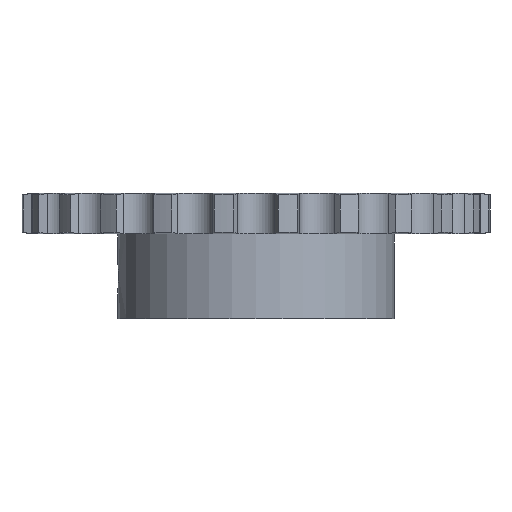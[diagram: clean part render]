
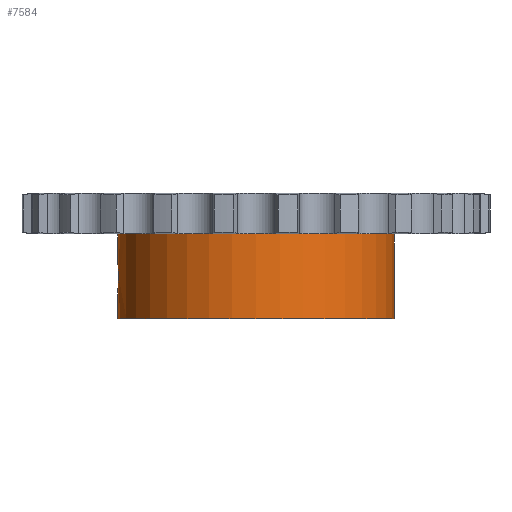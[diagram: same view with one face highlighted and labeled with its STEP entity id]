
A CAD part, front view. The second image highlights one B-rep face of the part: STEP entity #7584.
In plain terms, the highlighted cylindrical face has radius 55 mm (diameter 110 mm), a partial arc.
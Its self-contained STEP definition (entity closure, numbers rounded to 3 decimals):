
#1275=CARTESIAN_POINT('',(0.,0.,-8.1));
#1276=DIRECTION('',(0.,0.,1.));
#1277=DIRECTION('',(-1.,0.,0.));
#1278=AXIS2_PLACEMENT_3D('',#1275,#1276,#1277);
#3749=CARTESIAN_POINT('',(-55.,0.,
-20.));
#3775=DIRECTION('',(0.,0.,1.));
#3776=VECTOR('',#3775,33.8);
#3777=CARTESIAN_POINT('',(55.,0.,-41.9));
#3778=LINE('',#3777,#3776);
#3906=CARTESIAN_POINT('',(-55.,0.,
-20.));
#3907=CARTESIAN_POINT('',(-55.,-0.169,
-20.));
#3908=CARTESIAN_POINT('',(-54.998,-0.533,
-20.018));
#3909=CARTESIAN_POINT('',(-54.99,-1.089,
-20.105));
#3910=CARTESIAN_POINT('',(-54.976,-1.657,
-20.263));
#3911=CARTESIAN_POINT('',(-54.957,-2.202,
-20.484));
#3912=CARTESIAN_POINT('',(-54.934,-2.717,
-20.765));
#3913=CARTESIAN_POINT('',(-54.908,-3.195,
-21.104));
#3914=CARTESIAN_POINT('',(-54.881,-3.63,
-21.494));
#3915=CARTESIAN_POINT('',(-54.854,-4.015,
-21.929));
#3916=CARTESIAN_POINT('',(-54.828,-4.345,
-22.404));
#3917=CARTESIAN_POINT('',(-54.806,-4.619,
-22.914));
#3918=CARTESIAN_POINT('',(-54.787,-4.832,
-23.452));
#3919=CARTESIAN_POINT('',(-54.774,-4.979,
-24.007));
#3920=CARTESIAN_POINT('',(-54.767,-5.055,
-24.527));
#3921=CARTESIAN_POINT('',(-54.766,-5.069,
-24.857));
#3922=CARTESIAN_POINT('',(-54.766,-5.069,
-25.));
#3927=DIRECTION('',(0.,0.,1.));
#3928=VECTOR('',#3927,11.9);
#3929=CARTESIAN_POINT('',(-55.,0.,
-20.));
#3930=LINE('',#3929,#3928);
#3934=DIRECTION('',(0.,0.,1.));
#3935=VECTOR('',#3934,11.9);
#3936=CARTESIAN_POINT('',(-55.,0.,-41.9));
#3937=LINE('',#3936,#3935);
#3941=CARTESIAN_POINT('',(-54.766,-5.069,
-25.));
#3942=CARTESIAN_POINT('',(-54.766,-5.069,
-25.154));
#3943=CARTESIAN_POINT('',(-54.767,-5.053,
-25.496));
#3944=CARTESIAN_POINT('',(-54.775,-4.973,
-26.025));
#3945=CARTESIAN_POINT('',(-54.788,-4.822,
-26.577));
#3946=CARTESIAN_POINT('',(-54.807,-4.607,
-27.111));
#3947=CARTESIAN_POINT('',(-54.829,-4.332,
-27.617));
#3948=CARTESIAN_POINT('',(-54.855,-4.001,
-28.088));
#3949=CARTESIAN_POINT('',(-54.881,-3.616,
-28.519));
#3950=CARTESIAN_POINT('',(-54.908,-3.182,
-28.906));
#3951=CARTESIAN_POINT('',(-54.934,-2.705,
-29.242));
#3952=CARTESIAN_POINT('',(-54.957,-2.191,
-29.521));
#3953=CARTESIAN_POINT('',(-54.976,-1.649,
-29.74));
#3954=CARTESIAN_POINT('',(-54.99,-1.084,
-29.896));
#3955=CARTESIAN_POINT('',(-54.998,-0.531,
-29.982));
#3956=CARTESIAN_POINT('',(-55.,-0.168,
-30.));
#3957=CARTESIAN_POINT('',(-55.,0.,
-30.));
#3970=CARTESIAN_POINT('',(0.,0.,-41.9));
#3971=DIRECTION('',(0.,0.,-1.));
#3972=DIRECTION('',(1.,0.,0.));
#3973=AXIS2_PLACEMENT_3D('',#3970,#3971,#3972);
#4395=CARTESIAN_POINT('',(-55.,0.,-41.9));
#4396=CARTESIAN_POINT('',(55.,0.,-41.9));
#4397=VERTEX_POINT('',#4395);
#4398=VERTEX_POINT('',#4396);
#4399=CARTESIAN_POINT('',(55.,0.,-8.1));
#4400=VERTEX_POINT('',#4399);
#4401=CARTESIAN_POINT('',(-55.,0.,-8.1));
#4402=VERTEX_POINT('',#4401);
#4654=VERTEX_POINT('',#3749);
#4657=VERTEX_POINT('',#3922);
#4659=VERTEX_POINT('',#3957);
#7568=CARTESIAN_POINT('',(0.,0.,8.1));
#7569=DIRECTION('',(0.,0.,1.));
#7570=DIRECTION('',(1.,0.,0.));
#7571=AXIS2_PLACEMENT_3D('',#7568,#7569,#7570);
#7572=CYLINDRICAL_SURFACE('',#7571,55.);
#7573=ORIENTED_EDGE('',*,*,#7558,.F.);
#7574=ORIENTED_EDGE('',*,*,#7089,.T.);
#7575=ORIENTED_EDGE('',*,*,#5990,.T.);
#7576=ORIENTED_EDGE('',*,*,#7086,.F.);
#7578=ORIENTED_EDGE('',*,*,#7577,.T.);
#7579=ORIENTED_EDGE('',*,*,#7082,.T.);
#7581=ORIENTED_EDGE('',*,*,#7580,.F.);
#7582=EDGE_LOOP('',(#7573,#7574,#7575,#7576,#7578,#7579,#7581));
#7583=FACE_OUTER_BOUND('',#7582,.F.);
#7584=ADVANCED_FACE('',(#7583),#7572,.T.);
#1279=CIRCLE('',#1278,55.);
#3923=B_SPLINE_CURVE_WITH_KNOTS('',3,(#3906,#3907,#3908,#3909,#3910,#3911,#3912,
#3913,#3914,#3915,#3916,#3917,#3918,#3919,#3920,#3921,#3922),.UNSPECIFIED.,.F.,
.F.,(4,1,1,1,1,1,1,1,1,1,1,1,1,1,4),(0.,0.063,0.137,
0.21,0.283,0.357,0.43,
0.503,0.577,0.65,0.724,
0.797,0.87,0.944,1.),.UNSPECIFIED.);
#3958=B_SPLINE_CURVE_WITH_KNOTS('',3,(#3941,#3942,#3943,#3944,#3945,#3946,#3947,
#3948,#3949,#3950,#3951,#3952,#3953,#3954,#3955,#3956,#3957),.UNSPECIFIED.,.F.,
.F.,(4,1,1,1,1,1,1,1,1,1,1,1,1,1,4),(0.,0.061,0.134,
0.207,0.28,0.353,0.426,
0.499,0.572,0.645,0.718,
0.791,0.864,0.937,1.),.UNSPECIFIED.);
#3974=CIRCLE('',#3973,55.);
#5990=EDGE_CURVE('',#4402,#4400,#1279,.T.);
#7082=EDGE_CURVE('',#4397,#4659,#3937,.T.);
#7086=EDGE_CURVE('',#4398,#4400,#3778,.T.);
#7089=EDGE_CURVE('',#4654,#4402,#3930,.T.);
#7558=EDGE_CURVE('',#4654,#4657,#3923,.T.);
#7577=EDGE_CURVE('',#4398,#4397,#3974,.T.);
#7580=EDGE_CURVE('',#4657,#4659,#3958,.T.);
